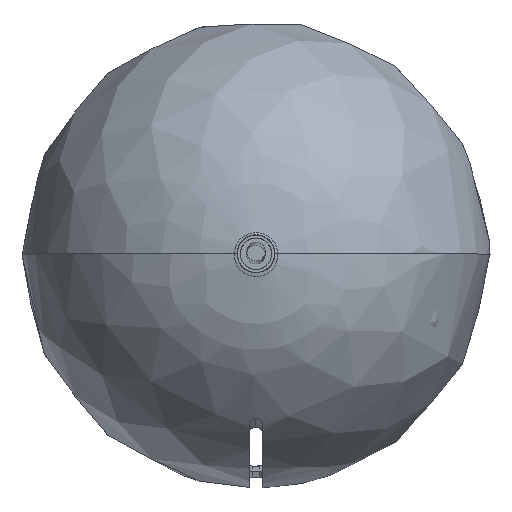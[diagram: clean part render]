
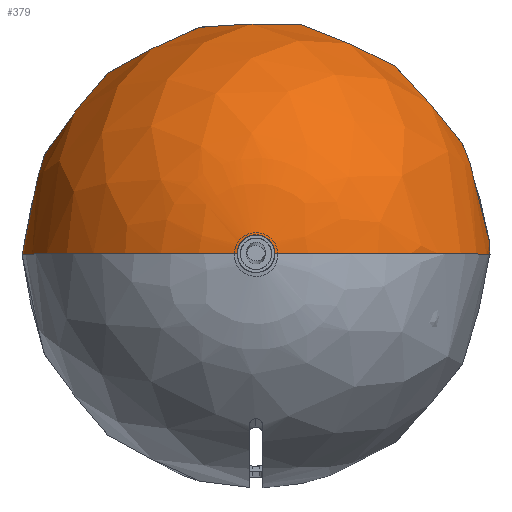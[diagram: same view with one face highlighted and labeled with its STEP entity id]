
A CAD part, top view. The second image highlights one B-rep face of the part: STEP entity #379.
In plain terms, the highlighted free-form (B-spline) face has degree [2, 2] with [5, 9] control points.
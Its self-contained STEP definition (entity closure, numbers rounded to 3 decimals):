
#379=ADVANCED_FACE('',(#412),#1275,.T.);
#412=FACE_OUTER_BOUND('',#447,.T.);
#447=EDGE_LOOP('',(#530,#531,#532,#533));
#530=ORIENTED_EDGE('',*,*,#1080,.T.);
#531=ORIENTED_EDGE('',*,*,#1081,.T.);
#532=ORIENTED_EDGE('',*,*,#1082,.T.);
#533=ORIENTED_EDGE('',*,*,#1083,.T.);
#634=PCURVE('',#1275,#738);
#635=PCURVE('',#1275,#739);
#636=PCURVE('',#1275,#740);
#637=PCURVE('',#1275,#741);
#738=DEFINITIONAL_REPRESENTATION('',(#880),#4492);
#739=DEFINITIONAL_REPRESENTATION('',(#881),#4492);
#740=DEFINITIONAL_REPRESENTATION('',(#882),#4492);
#741=DEFINITIONAL_REPRESENTATION('',(#883),#4492);
#880=B_SPLINE_CURVE_WITH_KNOTS('',1,(#3313,#3314),.UNSPECIFIED.,.F.,.F.,
(2,2),(-10.636,-7.494),.UNSPECIFIED.);
#881=B_SPLINE_CURVE_WITH_KNOTS('',1,(#3320,#3321),.UNSPECIFIED.,.F.,.F.,
(2,2),(-7.494,-5.318),.UNSPECIFIED.);
#882=B_SPLINE_CURVE_WITH_KNOTS('',1,(#3327,#3328),.UNSPECIFIED.,.F.,.F.,
(2,2),(-5.318,-2.176),.UNSPECIFIED.);
#883=B_SPLINE_CURVE_WITH_KNOTS('',1,(#3334,#3335),.UNSPECIFIED.,.F.,.F.,
(2,2),(-2.176,0.),.UNSPECIFIED.);
#982=SURFACE_CURVE('',#1140,(#634),.PCURVE_S1.);
#983=SURFACE_CURVE('',#1141,(#635),.PCURVE_S1.);
#984=SURFACE_CURVE('',#1142,(#636),.PCURVE_S1.);
#985=SURFACE_CURVE('',#1143,(#637),.PCURVE_S1.);
#1080=EDGE_CURVE('',#1228,#1229,#982,.T.);
#1081=EDGE_CURVE('',#1229,#1230,#983,.T.);
#1082=EDGE_CURVE('',#1230,#1231,#984,.T.);
#1083=EDGE_CURVE('',#1231,#1228,#985,.T.);
#1140=(
BOUNDED_CURVE()
B_SPLINE_CURVE(2,(#3308,#3309,#3310,#3311,#3312),.UNSPECIFIED.,.F.,.F.)
B_SPLINE_CURVE_WITH_KNOTS((3,2,3),(-10.636,-9.065,
-7.494),.UNSPECIFIED.)
CURVE()
GEOMETRIC_REPRESENTATION_ITEM()
RATIONAL_B_SPLINE_CURVE((1.,0.707,1.,0.707,1.))
REPRESENTATION_ITEM('')
);
#1141=(
BOUNDED_CURVE()
B_SPLINE_CURVE(2,(#3315,#3316,#3317,#3318,#3319),.UNSPECIFIED.,.F.,.F.)
B_SPLINE_CURVE_WITH_KNOTS((3,2,3),(-7.494,-6.406,-5.318),
 .UNSPECIFIED.)
CURVE()
GEOMETRIC_REPRESENTATION_ITEM()
RATIONAL_B_SPLINE_CURVE((1.,0.856,1.,0.856,1.))
REPRESENTATION_ITEM('')
);
#1142=(
BOUNDED_CURVE()
B_SPLINE_CURVE(2,(#3322,#3323,#3324,#3325,#3326),.UNSPECIFIED.,.F.,.F.)
B_SPLINE_CURVE_WITH_KNOTS((3,2,3),(-5.318,-3.747,
-2.176),.UNSPECIFIED.)
CURVE()
GEOMETRIC_REPRESENTATION_ITEM()
RATIONAL_B_SPLINE_CURVE((1.,0.707,1.,0.707,1.))
REPRESENTATION_ITEM('')
);
#1143=(
BOUNDED_CURVE()
B_SPLINE_CURVE(2,(#3329,#3330,#3331,#3332,#3333),.UNSPECIFIED.,.F.,.F.)
B_SPLINE_CURVE_WITH_KNOTS((3,2,3),(-2.176,-1.088,
0.),.UNSPECIFIED.)
CURVE()
GEOMETRIC_REPRESENTATION_ITEM()
RATIONAL_B_SPLINE_CURVE((1.,0.856,1.,0.856,1.))
REPRESENTATION_ITEM('')
);
#1228=VERTEX_POINT('',#3304);
#1229=VERTEX_POINT('',#3305);
#1230=VERTEX_POINT('',#3306);
#1231=VERTEX_POINT('',#3307);
#1275=(
BOUNDED_SURFACE()
B_SPLINE_SURFACE(2,2,((#3259,#3260,#3261,#3262,#3263,#3264,#3265,#3266,
#3267),(#3268,#3269,#3270,#3271,#3272,#3273,#3274,#3275,#3276),(#3277,#3278,
#3279,#3280,#3281,#3282,#3283,#3284,#3285),(#3286,#3287,#3288,#3289,#3290,
#3291,#3292,#3293,#3294),(#3295,#3296,#3297,#3298,#3299,#3300,#3301,#3302,
#3303)),.UNSPECIFIED.,.F.,.F.,.F.)
B_SPLINE_SURFACE_WITH_KNOTS((3,2,3),(3,2,2,2,3),(0.,1.571,3.142),
(2.749,3.632,4.516,5.4,6.283),
 .UNSPECIFIED.)
GEOMETRIC_REPRESENTATION_ITEM()
RATIONAL_B_SPLINE_SURFACE(((1.,0.904,1.,0.904,1.,
0.904,1.,0.904,1.),(0.707,0.639,
0.707,0.639,0.707,0.639,
0.707,0.639,0.707),(1.,0.904,
1.,0.904,1.,0.904,1.,0.904,1.),(0.707,
0.639,0.707,0.639,0.707,
0.639,0.707,0.639,0.707),
(1.,0.904,1.,0.904,1.,0.904,1.,0.904,
1.)))
REPRESENTATION_ITEM('')
SURFACE()
);
#3259=CARTESIAN_POINT('',(0.,0.45,-27.45));
#3260=CARTESIAN_POINT('',(0.,0.45,-27.45));
#3261=CARTESIAN_POINT('',(0.,0.45,-27.45));
#3262=CARTESIAN_POINT('',(0.,0.45,-27.45));
#3263=CARTESIAN_POINT('',(0.,0.45,-27.45));
#3264=CARTESIAN_POINT('',(0.,0.45,-27.45));
#3265=CARTESIAN_POINT('',(0.,0.45,-27.45));
#3266=CARTESIAN_POINT('',(0.,0.45,-27.45));
#3267=CARTESIAN_POINT('',(0.,0.45,-27.45));
#3268=CARTESIAN_POINT('',(69.291,-28.251,-27.45));
#3269=CARTESIAN_POINT('',(82.866,4.521,-27.45));
#3270=CARTESIAN_POINT('',(66.144,35.805,-27.45));
#3271=CARTESIAN_POINT('',(49.423,67.089,-27.45));
#3272=CARTESIAN_POINT('',(14.632,74.009,-27.45));
#3273=CARTESIAN_POINT('',(-20.159,80.929,-27.45));
#3274=CARTESIAN_POINT('',(-47.579,58.426,-27.45));
#3275=CARTESIAN_POINT('',(-75.,35.922,-27.45));
#3276=CARTESIAN_POINT('',(-75.,0.45,-27.45));
#3277=CARTESIAN_POINT('',(69.291,-28.251,47.55));
#3278=CARTESIAN_POINT('',(82.866,4.521,47.55));
#3279=CARTESIAN_POINT('',(66.144,35.805,47.55));
#3280=CARTESIAN_POINT('',(49.423,67.089,47.55));
#3281=CARTESIAN_POINT('',(14.632,74.009,47.55));
#3282=CARTESIAN_POINT('',(-20.159,80.929,47.55));
#3283=CARTESIAN_POINT('',(-47.579,58.426,47.55));
#3284=CARTESIAN_POINT('',(-75.,35.922,47.55));
#3285=CARTESIAN_POINT('',(-75.,0.45,47.55));
#3286=CARTESIAN_POINT('',(69.291,-28.251,122.55));
#3287=CARTESIAN_POINT('',(82.866,4.521,122.55));
#3288=CARTESIAN_POINT('',(66.144,35.805,122.55));
#3289=CARTESIAN_POINT('',(49.423,67.089,122.55));
#3290=CARTESIAN_POINT('',(14.632,74.009,122.55));
#3291=CARTESIAN_POINT('',(-20.159,80.929,122.55));
#3292=CARTESIAN_POINT('',(-47.579,58.426,122.55));
#3293=CARTESIAN_POINT('',(-75.,35.922,122.55));
#3294=CARTESIAN_POINT('',(-75.,0.45,122.55));
#3295=CARTESIAN_POINT('',(0.,0.45,122.55));
#3296=CARTESIAN_POINT('',(0.,0.45,122.55));
#3297=CARTESIAN_POINT('',(0.,0.45,122.55));
#3298=CARTESIAN_POINT('',(0.,0.45,122.55));
#3299=CARTESIAN_POINT('',(0.,0.45,122.55));
#3300=CARTESIAN_POINT('',(0.,0.45,122.55));
#3301=CARTESIAN_POINT('',(0.,0.45,122.55));
#3302=CARTESIAN_POINT('',(0.,0.45,122.55));
#3303=CARTESIAN_POINT('',(0.,0.45,122.55));
#3304=CARTESIAN_POINT('',(6.082,0.45,122.303));
#3305=CARTESIAN_POINT('',(-6.082,0.45,122.303));
#3306=CARTESIAN_POINT('',(-58.,0.45,0.));
#3307=CARTESIAN_POINT('',(58.,0.45,0.));
#3308=CARTESIAN_POINT('',(6.082,0.45,122.303));
#3309=CARTESIAN_POINT('',(6.082,6.532,122.303));
#3310=CARTESIAN_POINT('',(0.,6.532,122.303));
#3311=CARTESIAN_POINT('',(-6.082,6.532,122.303));
#3312=CARTESIAN_POINT('',(-6.082,0.45,122.303));
#3313=CARTESIAN_POINT('',(3.053,3.142));
#3314=CARTESIAN_POINT('',(3.053,6.283));
#3315=CARTESIAN_POINT('',(-6.082,0.45,122.303));
#3316=CARTESIAN_POINT('',(-51.307,0.45,118.624));
#3317=CARTESIAN_POINT('',(-69.037,0.45,76.857));
#3318=CARTESIAN_POINT('',(-86.767,0.45,35.09));
#3319=CARTESIAN_POINT('',(-58.,0.45,0.));
#3320=CARTESIAN_POINT('',(3.053,6.283));
#3321=CARTESIAN_POINT('',(0.879,6.283));
#3322=CARTESIAN_POINT('',(-58.,0.45,0.));
#3323=CARTESIAN_POINT('',(-58.,58.45,0.));
#3324=CARTESIAN_POINT('',(0.,58.45,0.));
#3325=CARTESIAN_POINT('',(58.,58.45,0.));
#3326=CARTESIAN_POINT('',(58.,0.45,0.));
#3327=CARTESIAN_POINT('',(0.879,6.283));
#3328=CARTESIAN_POINT('',(0.879,3.142));
#3329=CARTESIAN_POINT('',(58.,0.45,0.));
#3330=CARTESIAN_POINT('',(86.767,0.45,35.09));
#3331=CARTESIAN_POINT('',(69.037,0.45,76.857));
#3332=CARTESIAN_POINT('',(51.307,0.45,118.624));
#3333=CARTESIAN_POINT('',(6.082,0.45,122.303));
#3334=CARTESIAN_POINT('',(0.879,3.142));
#3335=CARTESIAN_POINT('',(3.053,3.142));
#4492=(
GEOMETRIC_REPRESENTATION_CONTEXT(2)
PARAMETRIC_REPRESENTATION_CONTEXT()
REPRESENTATION_CONTEXT('pspace','')
);
